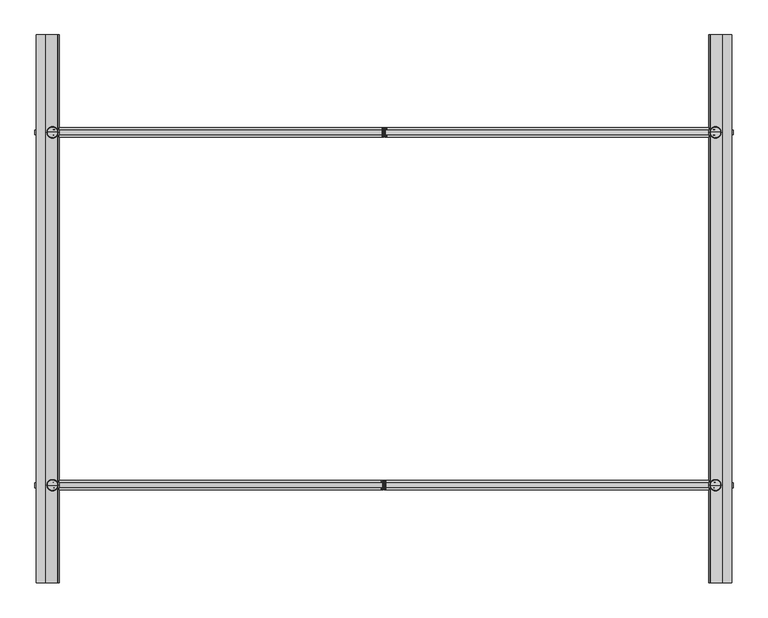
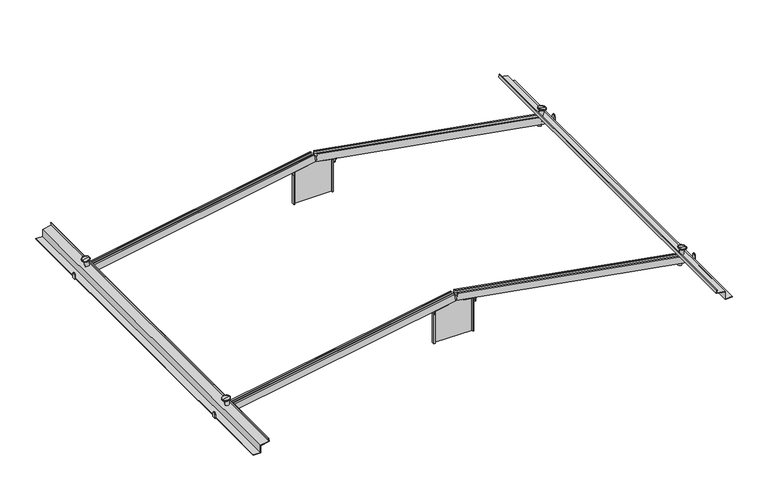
"""IFC4 building model written with IfcOpenShell, lengths in millimetres: proxy geometry, Kit Sunfix aero duo : Sunmodule Plus mono."""

from ifc_helpers import new_model, si_unit, point, frame, frame_2d, origin, place, context, project, spatial, polyline, circle_curve, ellipse_curve, trimmed, segment, composite_curve, outline, extrude, faceted_brep, source, transform, mapped, element, save
from ifc_brep_helpers import plane_surface, cylinder_surface, revolved_surface, advanced_brep


def generic_models_026dd120(model_context):
    return source(origin(), model_context, "Body", "SolidModel", [
        extrude(outline(polyline([(50.5842409, 1051.0007888), (50.5842409, 1084.0007888), (52.5842409, 1084.0007888), (52.5842409, 1053.0007888), (86.6720057, 1053.0007888), (93.5119636, 1014.20946), (106.3740068, 1016.4829555), (106.7221304, 1014.513486), (91.8897903, 1011.8917208), (84.9938065, 1051.0007888), (50.5842409, 1051.0007888)])), frame((0.0, -854.0, 0.0), z_axis=(0.0, 1.0, 0.0), x_axis=(0.0, 0.0, 1.0)), (0.0, 0.0, 1.0), 1708.0),
        extrude(outline(polyline([(-29.0, 0.0), (0.0, 0.0), (0.0, -32.9999999), (-6.0, -32.9999999), (-6.0, -31.0), (-2.0, -31.0), (-2.0, -19.0), (-27.0, -19.0), (-27.0, -31.0), (-23.0, -31.0), (-23.0, -33.0302887), (-29.0, -33.0302887), (-29.0, 0.0)]), holes=[polyline([(-2.0, -17.0), (-2.0, -2.0), (-27.0, -2.0), (-27.0, -17.0), (-2.0, -17.0)])]), frame((1045.4344107, -535.5, 52.5234994), z_axis=(-0.9848077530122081, 0.0, 0.17364817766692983), x_axis=(0.0, 1.0, 0.0)), (0.0, 0.0, 1.0), 1060.0),
        extrude(outline(composite_curve([segment(polyline([(-15.0, 0.0), (0.0, 0.0), (0.0, -18.0)]), True, "CONTINUOUS"), segment(trimmed(circle_curve(frame_2d((-7.5, -18.0)), 7.5), [point((0.0, -18.0))], [point((-15.0, -18.0))], False, "CARTESIAN"), True, "CONTINUOUS"), segment(polyline([(-15.0, -18.0), (-15.0, 0.0)]), True, "CONTINUOUS")], self_intersect=False)), frame((96.4595313, -557.5, 219.807873), z_axis=(-0.984807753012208, 0.0, 0.17364817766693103), x_axis=(0.0, -1.0, 0.0)), (0.0, 0.0, 1.0), 2.0),
        extrude(outline(composite_curve([segment(polyline([(-15.0, 0.0), (0.0, 0.0), (0.0, -18.0)]), True, "CONTINUOUS"), segment(trimmed(circle_curve(frame_2d((-7.5, -18.0)), 7.5), [point((0.0, -18.0))], [point((-15.0, -18.0))], False, "CARTESIAN"), True, "CONTINUOUS"), segment(polyline([(-15.0, -18.0), (-15.0, 0.0)]), True, "CONTINUOUS")], self_intersect=False)), frame((96.4608861, 542.5, 219.807396), z_axis=(-0.984807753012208, 0.0, 0.17364817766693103), x_axis=(0.0, -1.0, 0.0)), (0.0, 0.0, 1.0), 2.0),
        extrude(outline(polyline([(-29.0, 0.0), (0.0, 0.0), (0.0, -33.0000001), (-6.0, -33.0000001), (-6.0, -31.0000001), (-2.0, -31.0000001), (-2.0, -19.0000001), (-27.0, -19.0000001), (-27.0, -31.0000001), (-23.0, -31.0000001), (-23.0, -33.0000001), (-29.0, -33.0000001), (-29.0, 0.0)]), holes=[polyline([(-2.0, -17.0), (-2.0, -2.0000001), (-27.0, -2.0000001), (-27.0, -17.0), (-2.0, -17.0)])]), frame((1046.1210891, 564.5, 52.090647), z_axis=(-0.9848077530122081, 0.0, 0.17364817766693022), x_axis=(0.0, 1.0, 0.0)), (0.0, 0.0, 1.0), 1060.0),
        extrude(outline(polyline([(50.5842409, -1051.0007888), (85.0767034, -1051.0007888), (91.9745049, -1011.881413), (106.7358009, -1014.5158965), (106.3844086, -1016.4847854), (93.5961009, -1014.2024258), (86.7549027, -1053.0007888), (52.5842409, -1053.0007888), (52.5842409, -1084.0007888), (50.5842409, -1084.0007888), (50.5842409, -1051.0007888)])), frame((0.0, -854.0, 0.0), z_axis=(0.0, 1.0, 0.0), x_axis=(0.0, 0.0, 1.0)), (0.0, 0.0, 1.0), 1708.0),
        extrude(outline(polyline([(28.9866814, 0.0), (28.9866814, -32.6949549), (22.9866814, -32.6949549), (22.9866814, -30.6949549), (26.9866814, -30.6949549), (26.9866814, -19.0), (2.0, -19.0), (2.0, -30.7041532), (6.0, -30.7041532), (6.0, -32.7041532), (0.0, -32.7041532), (0.0, 0.0), (28.9866814, 0.0)]), holes=[polyline([(2.0, -17.0), (26.9866814, -17.0), (26.9866814, -2.0), (2.0, -2.0), (2.0, -17.0)])]), frame((-1045.406118, 564.5, 52.4241846), z_axis=(0.9848077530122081, 0.0, 0.17364817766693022), x_axis=(0.0, -1.0, 0.0)), (0.0, 0.0, 1.0), 1060.0),
        extrude(outline(polyline([(29.0, 0.0), (29.0, -33.0), (23.0, -33.0), (23.0, -31.0000001), (27.0, -31.0000001), (27.0, -19.0), (2.0, -19.0), (2.0, -31.0000001), (6.0, -31.0000001), (6.0, -33.0), (0.0, -33.0), (0.0, 0.0), (29.0, 0.0)]), holes=[polyline([(2.0, -17.0), (27.0, -17.0), (27.0, -2.0), (2.0, -2.0), (2.0, -17.0)])]), frame((-1046.1007107, -535.5, 52.5196656), z_axis=(0.9848077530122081, 0.0, 0.17364817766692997), x_axis=(0.0, -1.0, 0.0)), (0.0, 0.0, 1.0), 1060.0),
        extrude(outline(composite_curve([segment(trimmed(circle_curve(frame_2d((550.0, 66.5842409)), 7.5), [point((542.5, 66.5842409))], [point((557.5, 66.5842409))], False, "CARTESIAN"), True, "CONTINUOUS"), segment(polyline([(557.5, 66.5842409), (557.5, 48.5842409), (542.5, 48.5842409), (542.5, 66.5842409)]), True, "CONTINUOUS")], self_intersect=False)), frame((-1087.5, 0.0, 0.0), z_axis=(1.0, 0.0, 0.0), x_axis=(0.0, 1.0, 0.0)), (0.0, 0.0, 1.0), 3.0),
        extrude(outline(composite_curve([segment(trimmed(circle_curve(frame_2d((-550.0, 66.5842409)), 7.5), [point((-557.5, 66.5842409))], [point((-542.5, 66.5842409))], False, "CARTESIAN"), True, "CONTINUOUS"), segment(polyline([(-542.5, 66.5842409), (-542.5, 48.5842409), (-557.5, 48.5842409), (-557.5, 66.5842409)]), True, "CONTINUOUS")], self_intersect=False)), frame((-1087.5, 0.0, 0.0), z_axis=(1.0, 0.0, 0.0), x_axis=(0.0, 1.0, 0.0)), (0.0, 0.0, 1.0), 3.0),
        extrude(outline(composite_curve([segment(trimmed(circle_curve(frame_2d((17.9999999, -7.5)), 7.5), [point((17.9999999, 0.0))], [point((17.9999999, -15.0))], False, "CARTESIAN"), True, "CONTINUOUS"), segment(polyline([(17.9999999, -15.0), (0.0, -15.0), (0.0, 0.0), (17.9999999, 0.0)]), True, "CONTINUOUS")], self_intersect=False)), frame((-96.397644, 557.5, 219.7908866), z_axis=(0.9848077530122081, 0.0, 0.17364817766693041), x_axis=(0.17364817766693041, 0.0, -0.9848077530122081)), (0.0, 0.0, 1.0), 2.0),
        extrude(outline(composite_curve([segment(polyline([(0.0, -1115.0), (0.0, -1100.0), (17.9999999, -1100.0)]), True, "CONTINUOUS"), segment(trimmed(circle_curve(frame_2d((17.9999999, -1107.5)), 7.5), [point((17.9999999, -1100.0))], [point((17.9999999, -1115.0))], False, "CARTESIAN"), True, "CONTINUOUS"), segment(polyline([(17.9999999, -1115.0), (0.0, -1115.0)]), True, "CONTINUOUS")], self_intersect=False)), frame((-96.397644, 557.5, 219.7908866), z_axis=(0.9848077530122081, 0.0, 0.17364817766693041), x_axis=(0.17364817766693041, 0.0, -0.9848077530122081)), (0.0, 0.0, 1.0), 2.0),
        extrude(outline(composite_curve([segment(trimmed(circle_curve(frame_2d((550.0, 66.5842409)), 7.5), [point((542.5, 66.5842409))], [point((557.5, 66.5842409))], False, "CARTESIAN"), True, "CONTINUOUS"), segment(polyline([(557.5, 66.5842409), (557.5, 48.5842409), (542.5, 48.5842409), (542.5, 66.5842409)]), True, "CONTINUOUS")], self_intersect=False)), frame((1084.5, 0.0, 0.0), z_axis=(1.0, 0.0, 0.0), x_axis=(0.0, 1.0, 0.0)), (0.0, 0.0, 1.0), 3.0),
        extrude(outline(composite_curve([segment(trimmed(circle_curve(frame_2d((-550.0, 66.5842409)), 7.5), [point((-557.5, 66.5842409))], [point((-542.5, 66.5842409))], False, "CARTESIAN"), True, "CONTINUOUS"), segment(polyline([(-542.5, 66.5842409), (-542.5, 48.5842409), (-557.5, 48.5842409), (-557.5, 66.5842409)]), True, "CONTINUOUS")], self_intersect=False)), frame((1084.5, 0.0, 0.0), z_axis=(1.0, 0.0, 0.0), x_axis=(0.0, 1.0, 0.0)), (0.0, 0.0, 1.0), 3.0),
        faceted_brep([(17.5300257, -540.5, 233.6842409), (17.5300257, -535.5, 233.6842409), (-17.571354, -535.5, 233.6842409), (-17.5300257, -540.5, 233.6842409), (90.0, -535.5, 50.5842409), (90.0, -547.5, 50.5842409), (85.0, -547.5, 50.5842409), (85.0, -540.5, 50.5842409), (-85.0, -540.5, 50.5842409), (-85.0, -547.5, 50.5842409), (-90.0, -547.5, 50.5842409), (-90.0, -535.5, 50.5842409), (-90.0, -535.5, 220.9058291), (90.0, -535.5, 220.9058291), (-90.0, -547.5, 220.9058291), (-85.0, -547.5, 221.787464), (-85.0, -540.5, 221.787464), (85.0, -540.5, 221.787464), (85.0, -547.5, 221.787464), (90.0, -547.5, 220.9058291)], [[[0, 1, 2, 3]], [[4, 5, 6, 7, 8, 9, 10, 11]], [[4, 11, 12, 2, 1, 13]], [[11, 10, 14, 12]], [[10, 9, 15, 14]], [[9, 8, 16, 15]], [[8, 7, 17, 0, 3, 16]], [[7, 6, 18, 17]], [[6, 5, 19, 18]], [[5, 4, 13, 19]], [[1, 0, 17, 18, 19, 13]], [[3, 2, 12, 14, 15, 16]]]),
        faceted_brep([(94.4885259, -535.5, 220.1559208), (94.1412295, -535.5, 218.1863053), (35.0527643, -535.5, 228.605196), (35.4000607, -535.5, 230.5748115), (90.0, -535.5, 220.947369), (35.4000607, -564.5, 230.5748115), (35.0527643, -564.5, 228.605196), (94.1412295, -564.5, 218.1863053), (94.4885259, -564.5, 220.1559208), (90.0, -564.5, 220.947369)], [[[0, 1, 2, 3, 4]], [[5, 6, 7, 8, 9]], [[3, 2, 6, 5]], [[2, 1, 7, 6]], [[1, 0, 8, 7]], [[3, 5, 9, 8, 0, 4]]]),
        faceted_brep([(-35.3395633, -535.5, 230.5570736), (-34.992267, -535.5, 228.5874581), (-94.0807322, -535.5, 218.1685675), (-94.4280285, -535.5, 220.138183), (-90.0, -535.5, 220.9189639), (-94.4280285, -564.5, 220.138183), (-94.0807322, -564.5, 218.1685675), (-34.992267, -564.5, 228.5874581), (-35.3395633, -564.5, 230.5570736), (-90.0, -564.5, 220.9189639)], [[[0, 1, 2, 3, 4]], [[5, 6, 7, 8, 9]], [[1, 0, 8, 7]], [[2, 1, 7, 6]], [[3, 2, 6, 5]], [[8, 0, 4, 3, 5, 9]]]),
        faceted_brep([(17.5300257, 559.5, 233.6842409), (17.5300257, 564.5, 233.6842409), (-17.571354, 564.5, 233.6842409), (-17.5300257, 559.5, 233.6842409), (90.0, 564.5, 50.5842409), (90.0, 552.5, 50.5842409), (85.0, 552.5, 50.5842409), (85.0, 559.5, 50.5842409), (-85.0, 559.5, 50.5842409), (-85.0, 552.5, 50.5842409), (-90.0, 552.5, 50.5842409), (-90.0, 564.5, 50.5842409), (-90.0, 564.5, 220.9058291), (90.0, 564.5, 220.9058291), (-90.0, 552.5, 220.9058291), (-85.0, 552.5, 221.787464), (-85.0, 559.5, 221.787464), (85.0, 559.5, 221.787464), (85.0, 552.5, 221.787464), (90.0, 552.5, 220.9058291)], [[[0, 1, 2, 3]], [[4, 5, 6, 7, 8, 9, 10, 11]], [[4, 11, 12, 2, 1, 13]], [[11, 10, 14, 12]], [[10, 9, 15, 14]], [[9, 8, 16, 15]], [[8, 7, 17, 0, 3, 16]], [[7, 6, 18, 17]], [[6, 5, 19, 18]], [[5, 4, 13, 19]], [[1, 0, 17, 18, 19, 13]], [[3, 2, 12, 14, 15, 16]]]),
        faceted_brep([(94.4897631, 564.5, 220.1544877), (94.1424667, 564.5, 218.1848722), (35.0540016, 564.5, 228.6037629), (35.4012979, 564.5, 230.5733784), (90.0, 564.5, 220.9461541), (35.4012979, 535.5, 230.5733784), (35.0540016, 535.5, 228.6037629), (94.1424667, 535.5, 218.1848722), (94.4897631, 535.5, 220.1544877), (90.0, 535.5, 220.9461541)], [[[0, 1, 2, 3, 4]], [[5, 6, 7, 8, 9]], [[3, 2, 6, 5]], [[2, 1, 7, 6]], [[1, 0, 8, 7]], [[3, 5, 9, 8, 0, 4]]]),
        faceted_brep([(-35.3387775, 564.5, 230.5540029), (-34.9914811, 564.5, 228.5843874), (-94.0799463, 564.5, 218.1654967), (-94.4272427, 564.5, 220.1351122), (-90.0, 564.5, 220.9157545), (-94.4272427, 535.5, 220.1351122), (-94.0799463, 535.5, 218.1654967), (-34.9914811, 535.5, 228.5843874), (-35.3387775, 535.5, 230.5540029), (-90.0, 535.5, 220.9157545)], [[[0, 1, 2, 3, 4]], [[5, 6, 7, 8, 9]], [[1, 0, 8, 7]], [[2, 1, 7, 6]], [[3, 2, 6, 5]], [[8, 0, 4, 3, 5, 9]]]),
        advanced_brep(
        [(-1016.9057878, -550.0144087, 126.5605313), (-1049.2313508, -550.0144087, 120.8606624), (-1033.0685693, -550.0144087, 123.7105968), (-1015.7649314, -550.0144087, 125.761695), (-1050.030187, -550.0144087, 119.719806), (-1015.5939214, -550.0144087, 124.7918487), (-1049.859177, -550.0144087, 118.7499597), (-1017.1915938, -550.0144087, 122.510136), (-1047.5774642, -550.0144087, 117.1522872), (-1022.2823855, -550.0144087, 116.65385), (-1040.7907171, -550.0144087, 113.3903318), (-1010.0123837, -550.0144087, 47.0672117), (-1028.5207152, -550.0144087, 43.8036935), (-1019.2665495, -550.0144087, 45.4354526)],
        [
            (0, 1, circle_curve(frame((-1033.0685693, -550.0144087, 123.7105968), z_axis=(-0.17364817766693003, 0.0, 0.9848077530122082), x_axis=(-0.984807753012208, 0.0, -0.17364817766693)), 16.4121185)),
            (1, 2),
            (2, 0),
            (1, 0, circle_curve(frame((-1033.0685693, -550.0144087, 123.7105968), z_axis=(-0.17364817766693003, 0.0, 0.9848077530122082), x_axis=(-0.984807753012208, 0.0, -0.17364817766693)), 16.4121185)),
            (3, 4, circle_curve(frame((-1032.8975592, -550.0144087, 122.7407505), z_axis=(-0.17364817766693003, 0.0, 0.9848077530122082), x_axis=(-0.984807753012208, 0.0, -0.17364817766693)), 17.3969262)),
            (4, 1, circle_curve(frame((-1048.816113, -550.0144087, 119.719806), z_axis=(0.0, 1.0, 0.0), x_axis=(0.9999999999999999, 0.0, 0.0)), 1.214074)),
            (0, 3, circle_curve(frame((-1016.9057878, -550.0144087, 125.3464573), z_axis=(0.0, 1.0, 0.0), x_axis=(-0.9396926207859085, 0.0, -0.3420201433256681)), 1.214074)),
            (4, 3, circle_curve(frame((-1032.8975592, -550.0144087, 122.7407505), z_axis=(-0.17364817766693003, 0.0, 0.9848077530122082), x_axis=(-0.984807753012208, 0.0, -0.17364817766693)), 17.3969262)),
            (5, 6, circle_curve(frame((-1032.7265492, -550.0144087, 121.7709042), z_axis=(-0.17364817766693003, 0.0, 0.9848077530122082), x_axis=(-0.984807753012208, 0.0, -0.17364817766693)), 17.3969262)),
            (6, 4),
            (3, 5),
            (6, 5, circle_curve(frame((-1032.7265492, -550.0144087, 121.7709042), z_axis=(-0.17364817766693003, 0.0, 0.9848077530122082), x_axis=(-0.984807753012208, 0.0, -0.17364817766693)), 17.3969262)),
            (7, 8, circle_curve(frame((-1032.384529, -550.0144087, 119.8312116), z_axis=(-0.17364817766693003, 0.0, 0.9848077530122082), x_axis=(-0.984807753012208, 0.0, -0.17364817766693)), 15.4273107)),
            (8, 6, circle_curve(frame((-1048.0897107, -550.0144087, 118.8488714), z_axis=(0.0, 1.0, 0.0), x_axis=(0.9999999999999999, 0.0, 0.0)), 1.7722286)),
            (5, 7, circle_curve(frame((-1017.2905055, -550.0144087, 124.2796022), z_axis=(0.0, 1.0, 0.0), x_axis=(-0.9396926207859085, 0.0, -0.3420201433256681)), 1.7722286)),
            (8, 7, circle_curve(frame((-1032.384529, -550.0144087, 119.8312116), z_axis=(-0.17364817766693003, 0.0, 0.9848077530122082), x_axis=(-0.984807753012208, 0.0, -0.17364817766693)), 15.4273107)),
            (9, 10, circle_curve(frame((-1031.5365513, -550.0144087, 115.0220909), z_axis=(-0.17364817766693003, 0.0, 0.9848077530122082), x_axis=(-0.984807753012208, 0.0, -0.17364817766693)), 9.3969262)),
            (10, 8, circle_curve(frame((-1046.5069046, -550.0144087, 111.0808421), z_axis=(0.0, -1.0, 0.0), x_axis=(0.9999999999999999, 0.0, 0.0)), 6.1651069)),
            (7, 9, circle_curve(frame((-1016.1210343, -550.0144087, 116.4386909), z_axis=(0.0, -1.0, 0.0), x_axis=(-0.9396926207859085, 0.0, -0.3420201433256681)), 6.1651069)),
            (10, 9, circle_curve(frame((-1031.5365513, -550.0144087, 115.0220909), z_axis=(-0.17364817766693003, 0.0, 0.9848077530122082), x_axis=(-0.984807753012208, 0.0, -0.17364817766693)), 9.3969262)),
            (11, 12, circle_curve(frame((-1019.2665495, -550.0144087, 45.4354526), z_axis=(-0.17364817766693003, 0.0, 0.9848077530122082), x_axis=(-0.984807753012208, 0.0, -0.17364817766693)), 9.3969262)),
            (12, 10),
            (9, 11),
            (12, 11, circle_curve(frame((-1019.2665495, -550.0144087, 45.4354526), z_axis=(-0.17364817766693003, 0.0, 0.9848077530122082), x_axis=(-0.984807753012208, 0.0, -0.17364817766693)), 9.3969262)),
            (13, 12),
            (11, 13),
        ],
        [
            plane_surface(frame((-1033.0685693, -550.0144087, 123.7105968), z_axis=(-0.17364817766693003, 0.0, 0.9848077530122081), x_axis=(-0.9848077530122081, 0.0, -0.17364817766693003))),
            revolved_surface(trimmed(ellipse_curve(frame((-1048.816113, -550.0144087, 119.719806), z_axis=(0.0, -1.0, 0.0), x_axis=(0.9999999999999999, 0.0, 0.0)), 1.214074, 1.214074), [point((-1049.2313508, -550.0144087, 120.8606624))], [point((-1050.030187, -550.0144087, 119.719806))], True, "CARTESIAN"), (-1033.0685693, -550.0144087, 123.7105968), (0.17364817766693, 0.0, -0.984807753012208)),
            cylinder_surface(frame((-1033.0685693, -550.0144087, 123.7105968), z_axis=(0.17364817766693, 0.0, -0.984807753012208), x_axis=(-0.984807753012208, 0.0, -0.17364817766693)), 17.3969262),
            revolved_surface(trimmed(ellipse_curve(frame((-1048.0897107, -550.0144087, 118.8488714), z_axis=(0.0, -1.0, 0.0), x_axis=(0.9999999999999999, 0.0, 0.0)), 1.7722286, 1.7722286), [point((-1049.859177, -550.0144087, 118.7499597))], [point((-1047.5774642, -550.0144087, 117.1522872))], True, "CARTESIAN"), (-1033.0685693, -550.0144087, 123.7105968), (0.17364817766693, 0.0, -0.984807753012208)),
            revolved_surface(trimmed(ellipse_curve(frame((-1046.5069046, -550.0144087, 111.0808421), z_axis=(0.0, 1.0, 0.0), x_axis=(0.9999999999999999, 0.0, 0.0)), 6.1651069, 6.1651069), [point((-1047.5774642, -550.0144087, 117.1522872))], [point((-1040.7907171, -550.0144087, 113.3903318))], True, "CARTESIAN"), (-1033.0685693, -550.0144087, 123.7105968), (0.17364817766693, 0.0, -0.984807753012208)),
            cylinder_surface(frame((-1033.0685693, -550.0144087, 123.7105968), z_axis=(0.17364817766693, 0.0, -0.984807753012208), x_axis=(-0.984807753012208, 0.0, -0.17364817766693)), 9.3969262),
            plane_surface(frame((-1019.2665495, -550.0144087, 45.4354526), z_axis=(0.17364817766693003, 0.0, -0.9848077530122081), x_axis=(-0.9848077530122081, 0.0, -0.17364817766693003))),
        ],
        [
            (0, [[1, 2, 3]]),
            (0, [[4, -3, -2]]),
            (1, [[5, 6, -1, 7]]),
            (1, [[8, -7, -4, -6]]),
            (2, [[9, 10, -5, 11]]),
            (2, [[12, -11, -8, -10]]),
            (3, [[13, 14, -9, 15]]),
            (3, [[16, -15, -12, -14]]),
            (4, [[17, 18, -13, 19]]),
            (4, [[20, -19, -16, -18]]),
            (5, [[21, 22, -17, 23]]),
            (5, [[24, -23, -20, -22]]),
            (6, [[25, -21, 26]]),
            (6, [[-26, -24, -25]]),
        ],
    ),
        advanced_brep(
        [(-1033.0685693, 550.0144087, 123.7105968), (-1049.2313508, 550.0144087, 120.8606624), (-1016.9057878, 550.0144087, 126.5605313), (-1050.030187, 550.0144087, 119.719806), (-1015.7649314, 550.0144087, 125.761695), (-1049.859177, 550.0144087, 118.7499597), (-1015.5939214, 550.0144087, 124.7918487), (-1047.5774642, 550.0144087, 117.1522872), (-1017.1915938, 550.0144087, 122.510136), (-1040.7907171, 550.0144087, 113.3903318), (-1022.2823855, 550.0144087, 116.65385), (-1028.5207152, 550.0144087, 43.8036935), (-1010.0123837, 550.0144087, 47.0672117), (-1019.2665495, 550.0144087, 45.4354526)],
        [
            (0, 1),
            (1, 2, circle_curve(frame((-1033.0685693, 550.0144087, 123.7105968), z_axis=(-0.17364817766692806, 0.0, 0.9848077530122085), x_axis=(-0.9848077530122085, 0.0, -0.17364817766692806)), 16.4121185)),
            (2, 0),
            (2, 1, circle_curve(frame((-1033.0685693, 550.0144087, 123.7105968), z_axis=(-0.17364817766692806, 0.0, 0.9848077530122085), x_axis=(-0.9848077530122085, 0.0, -0.17364817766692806)), 16.4121185)),
            (1, 3, circle_curve(frame((-1048.816113, 550.0144087, 119.719806), z_axis=(0.0, -1.0, 0.0), x_axis=(1.0, 0.0, 0.0)), 1.214074)),
            (3, 4, circle_curve(frame((-1032.8975592, 550.0144087, 122.7407505), z_axis=(-0.17364817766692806, 0.0, 0.9848077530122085), x_axis=(-0.9848077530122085, 0.0, -0.17364817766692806)), 17.3969262)),
            (4, 2, circle_curve(frame((-1016.9057878, 550.0144087, 125.3464573), z_axis=(0.0, -1.0, 0.0), x_axis=(-0.93969262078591, 0.0, -0.3420201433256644)), 1.214074)),
            (4, 3, circle_curve(frame((-1032.8975592, 550.0144087, 122.7407505), z_axis=(-0.17364817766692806, 0.0, 0.9848077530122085), x_axis=(-0.9848077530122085, 0.0, -0.17364817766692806)), 17.3969262)),
            (3, 5),
            (5, 6, circle_curve(frame((-1032.7265492, 550.0144087, 121.7709042), z_axis=(-0.17364817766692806, 0.0, 0.9848077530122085), x_axis=(-0.9848077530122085, 0.0, -0.17364817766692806)), 17.3969262)),
            (6, 4),
            (6, 5, circle_curve(frame((-1032.7265492, 550.0144087, 121.7709042), z_axis=(-0.17364817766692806, 0.0, 0.9848077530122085), x_axis=(-0.9848077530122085, 0.0, -0.17364817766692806)), 17.3969262)),
            (5, 7, circle_curve(frame((-1048.0897107, 550.0144087, 118.8488714), z_axis=(0.0, -1.0, 0.0), x_axis=(1.0, 0.0, 0.0)), 1.7722286)),
            (7, 8, circle_curve(frame((-1032.384529, 550.0144087, 119.8312116), z_axis=(-0.17364817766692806, 0.0, 0.9848077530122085), x_axis=(-0.9848077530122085, 0.0, -0.17364817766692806)), 15.4273107)),
            (8, 6, circle_curve(frame((-1017.2905055, 550.0144087, 124.2796022), z_axis=(0.0, -1.0, 0.0), x_axis=(-0.93969262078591, 0.0, -0.3420201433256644)), 1.7722286)),
            (8, 7, circle_curve(frame((-1032.384529, 550.0144087, 119.8312116), z_axis=(-0.17364817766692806, 0.0, 0.9848077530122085), x_axis=(-0.9848077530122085, 0.0, -0.17364817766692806)), 15.4273107)),
            (7, 9, circle_curve(frame((-1046.5069046, 550.0144087, 111.0808421), z_axis=(0.0, 1.0, 0.0), x_axis=(1.0, 0.0, 0.0)), 6.1651069)),
            (9, 10, circle_curve(frame((-1031.5365513, 550.0144087, 115.0220909), z_axis=(-0.17364817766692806, 0.0, 0.9848077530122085), x_axis=(-0.9848077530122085, 0.0, -0.17364817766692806)), 9.3969262)),
            (10, 8, circle_curve(frame((-1016.1210343, 550.0144087, 116.4386909), z_axis=(0.0, 1.0, 0.0), x_axis=(-0.93969262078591, 0.0, -0.3420201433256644)), 6.1651069)),
            (10, 9, circle_curve(frame((-1031.5365513, 550.0144087, 115.0220909), z_axis=(-0.17364817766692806, 0.0, 0.9848077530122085), x_axis=(-0.9848077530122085, 0.0, -0.17364817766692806)), 9.3969262)),
            (9, 11),
            (11, 12, circle_curve(frame((-1019.2665495, 550.0144087, 45.4354526), z_axis=(-0.17364817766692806, 0.0, 0.9848077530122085), x_axis=(-0.9848077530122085, 0.0, -0.17364817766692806)), 9.3969262)),
            (12, 10),
            (12, 11, circle_curve(frame((-1019.2665495, 550.0144087, 45.4354526), z_axis=(-0.17364817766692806, 0.0, 0.9848077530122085), x_axis=(-0.9848077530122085, 0.0, -0.17364817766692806)), 9.3969262)),
            (11, 13),
            (13, 12),
        ],
        [
            plane_surface(frame((-1033.0685693, 550.0144087, 123.7105968), z_axis=(-0.17364817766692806, 0.0, 0.9848077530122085), x_axis=(-0.9848077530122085, 0.0, -0.17364817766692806))),
            revolved_surface(trimmed(ellipse_curve(frame((-1048.816113, 550.0144087, 119.719806), z_axis=(0.0, 1.0, 0.0), x_axis=(1.0, 0.0, 0.0)), 1.214074, 1.214074), [point((-1050.030187, 550.0144087, 119.719806))], [point((-1049.2313508, 550.0144087, 120.8606624))], True, "CARTESIAN"), (-1033.0685693, 550.0144087, 123.7105968), (-0.17364817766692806, 0.0, 0.9848077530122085)),
            cylinder_surface(frame((-1033.0685693, 550.0144087, 123.7105968), z_axis=(-0.17364817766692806, 0.0, 0.9848077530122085), x_axis=(-0.9848077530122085, 0.0, -0.17364817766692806)), 17.3969262),
            revolved_surface(trimmed(ellipse_curve(frame((-1048.0897107, 550.0144087, 118.8488714), z_axis=(0.0, 1.0, 0.0), x_axis=(1.0, 0.0, 0.0)), 1.7722286, 1.7722286), [point((-1047.5774642, 550.0144087, 117.1522872))], [point((-1049.859177, 550.0144087, 118.7499597))], True, "CARTESIAN"), (-1033.0685693, 550.0144087, 123.7105968), (-0.17364817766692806, 0.0, 0.9848077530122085)),
            revolved_surface(trimmed(ellipse_curve(frame((-1046.5069046, 550.0144087, 111.0808421), z_axis=(0.0, -1.0, 0.0), x_axis=(1.0, 0.0, 0.0)), 6.1651069, 6.1651069), [point((-1040.7907171, 550.0144087, 113.3903318))], [point((-1047.5774642, 550.0144087, 117.1522872))], True, "CARTESIAN"), (-1033.0685693, 550.0144087, 123.7105968), (-0.17364817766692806, 0.0, 0.9848077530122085)),
            cylinder_surface(frame((-1033.0685693, 550.0144087, 123.7105968), z_axis=(-0.17364817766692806, 0.0, 0.9848077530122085), x_axis=(-0.9848077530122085, 0.0, -0.17364817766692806)), 9.3969262),
            plane_surface(frame((-1019.2665495, 550.0144087, 45.4354526), z_axis=(0.17364817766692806, 0.0, -0.9848077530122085), x_axis=(-0.9848077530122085, 0.0, -0.17364817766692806))),
        ],
        [
            (0, [[1, 2, 3]]),
            (0, [[-3, 4, -1]]),
            (1, [[-2, 5, 6, 7]]),
            (1, [[-4, -7, 8, -5]]),
            (2, [[-6, 9, 10, 11]]),
            (2, [[-8, -11, 12, -9]]),
            (3, [[-10, 13, 14, 15]]),
            (3, [[-12, -15, 16, -13]]),
            (4, [[-14, 17, 18, 19]]),
            (4, [[-16, -19, 20, -17]]),
            (5, [[-18, 21, 22, 23]]),
            (5, [[-20, -23, 24, -21]]),
            (6, [[-22, 25, 26]]),
            (6, [[-24, -26, -25]]),
        ],
    ),
        advanced_brep(
        [(1033.0685693, -550.0144087, 123.7105968), (1049.2313508, -550.0144087, 120.8606624), (1016.9057878, -550.0144087, 126.5605313), (1050.030187, -550.0144087, 119.719806), (1015.7649314, -550.0144087, 125.761695), (1049.859177, -550.0144087, 118.7499597), (1015.5939214, -550.0144087, 124.7918487), (1047.5774642, -550.0144087, 117.1522872), (1017.1915938, -550.0144087, 122.510136), (1040.7907171, -550.0144087, 113.3903318), (1022.2823855, -550.0144087, 116.65385), (1028.5207152, -550.0144087, 43.8036935), (1010.0123837, -550.0144087, 47.0672117), (1019.2665495, -550.0144087, 45.4354526)],
        [
            (0, 1),
            (1, 2, circle_curve(frame((1033.0685693, -550.0144087, 123.7105968), z_axis=(0.1736481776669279, 0.0, 0.9848077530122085), x_axis=(0.9848077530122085, 0.0, -0.1736481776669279)), 16.4121185)),
            (2, 0),
            (2, 1, circle_curve(frame((1033.0685693, -550.0144087, 123.7105968), z_axis=(0.1736481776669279, 0.0, 0.9848077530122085), x_axis=(0.9848077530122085, 0.0, -0.1736481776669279)), 16.4121185)),
            (1, 3, circle_curve(frame((1048.816113, -550.0144087, 119.719806), z_axis=(0.0, 1.0, 0.0), x_axis=(-1.0, 0.0, 0.0)), 1.214074)),
            (3, 4, circle_curve(frame((1032.8975592, -550.0144087, 122.7407505), z_axis=(0.1736481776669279, 0.0, 0.9848077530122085), x_axis=(0.9848077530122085, 0.0, -0.1736481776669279)), 17.3969262)),
            (4, 2, circle_curve(frame((1016.9057878, -550.0144087, 125.3464573), z_axis=(0.0, 1.0, 0.0), x_axis=(0.93969262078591, 0.0, -0.34202014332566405)), 1.214074)),
            (4, 3, circle_curve(frame((1032.8975592, -550.0144087, 122.7407505), z_axis=(0.1736481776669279, 0.0, 0.9848077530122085), x_axis=(0.9848077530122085, 0.0, -0.1736481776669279)), 17.3969262)),
            (3, 5),
            (5, 6, circle_curve(frame((1032.7265492, -550.0144087, 121.7709042), z_axis=(0.1736481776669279, 0.0, 0.9848077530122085), x_axis=(0.9848077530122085, 0.0, -0.1736481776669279)), 17.3969262)),
            (6, 4),
            (6, 5, circle_curve(frame((1032.7265492, -550.0144087, 121.7709042), z_axis=(0.1736481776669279, 0.0, 0.9848077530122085), x_axis=(0.9848077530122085, 0.0, -0.1736481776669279)), 17.3969262)),
            (5, 7, circle_curve(frame((1048.0897107, -550.0144087, 118.8488714), z_axis=(0.0, 1.0, 0.0), x_axis=(-1.0, 0.0, 0.0)), 1.7722286)),
            (7, 8, circle_curve(frame((1032.384529, -550.0144087, 119.8312116), z_axis=(0.1736481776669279, 0.0, 0.9848077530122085), x_axis=(0.9848077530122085, 0.0, -0.1736481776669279)), 15.4273107)),
            (8, 6, circle_curve(frame((1017.2905055, -550.0144087, 124.2796022), z_axis=(0.0, 1.0, 0.0), x_axis=(0.93969262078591, 0.0, -0.34202014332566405)), 1.7722286)),
            (8, 7, circle_curve(frame((1032.384529, -550.0144087, 119.8312116), z_axis=(0.1736481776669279, 0.0, 0.9848077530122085), x_axis=(0.9848077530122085, 0.0, -0.1736481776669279)), 15.4273107)),
            (7, 9, circle_curve(frame((1046.5069046, -550.0144087, 111.0808421), z_axis=(0.0, -1.0, 0.0), x_axis=(-1.0, 0.0, 0.0)), 6.1651069)),
            (9, 10, circle_curve(frame((1031.5365513, -550.0144087, 115.0220909), z_axis=(0.1736481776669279, 0.0, 0.9848077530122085), x_axis=(0.9848077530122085, 0.0, -0.1736481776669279)), 9.3969262)),
            (10, 8, circle_curve(frame((1016.1210343, -550.0144087, 116.4386909), z_axis=(0.0, -1.0, 0.0), x_axis=(0.93969262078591, 0.0, -0.34202014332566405)), 6.1651069)),
            (10, 9, circle_curve(frame((1031.5365513, -550.0144087, 115.0220909), z_axis=(0.1736481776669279, 0.0, 0.9848077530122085), x_axis=(0.9848077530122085, 0.0, -0.1736481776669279)), 9.3969262)),
            (9, 11),
            (11, 12, circle_curve(frame((1019.2665495, -550.0144087, 45.4354526), z_axis=(0.1736481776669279, 0.0, 0.9848077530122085), x_axis=(0.9848077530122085, 0.0, -0.1736481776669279)), 9.3969262)),
            (12, 10),
            (12, 11, circle_curve(frame((1019.2665495, -550.0144087, 45.4354526), z_axis=(0.1736481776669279, 0.0, 0.9848077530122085), x_axis=(0.9848077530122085, 0.0, -0.1736481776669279)), 9.3969262)),
            (11, 13),
            (13, 12),
        ],
        [
            plane_surface(frame((1033.0685693, -550.0144087, 123.7105968), z_axis=(0.1736481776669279, 0.0, 0.9848077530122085), x_axis=(0.9848077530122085, 0.0, -0.1736481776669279))),
            revolved_surface(trimmed(ellipse_curve(frame((1048.816113, -550.0144087, 119.719806), z_axis=(0.0, -1.0, 0.0), x_axis=(-1.0, 0.0, 0.0)), 1.214074, 1.214074), [point((1050.030187, -550.0144087, 119.719806))], [point((1049.2313508, -550.0144087, 120.8606624))], True, "CARTESIAN"), (1033.0685693, -550.0144087, 123.7105968), (0.1736481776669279, 0.0, 0.9848077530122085)),
            cylinder_surface(frame((1033.0685693, -550.0144087, 123.7105968), z_axis=(0.1736481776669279, 0.0, 0.9848077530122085), x_axis=(0.9848077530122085, 0.0, -0.1736481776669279)), 17.3969262),
            revolved_surface(trimmed(ellipse_curve(frame((1048.0897107, -550.0144087, 118.8488714), z_axis=(0.0, -1.0, 0.0), x_axis=(-1.0, 0.0, 0.0)), 1.7722286, 1.7722286), [point((1047.5774642, -550.0144087, 117.1522872))], [point((1049.859177, -550.0144087, 118.7499597))], True, "CARTESIAN"), (1033.0685693, -550.0144087, 123.7105968), (0.1736481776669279, 0.0, 0.9848077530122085)),
            revolved_surface(trimmed(ellipse_curve(frame((1046.5069046, -550.0144087, 111.0808421), z_axis=(0.0, 1.0, 0.0), x_axis=(-1.0, 0.0, 0.0)), 6.1651069, 6.1651069), [point((1040.7907171, -550.0144087, 113.3903318))], [point((1047.5774642, -550.0144087, 117.1522872))], True, "CARTESIAN"), (1033.0685693, -550.0144087, 123.7105968), (0.1736481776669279, 0.0, 0.9848077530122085)),
            cylinder_surface(frame((1033.0685693, -550.0144087, 123.7105968), z_axis=(0.1736481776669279, 0.0, 0.9848077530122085), x_axis=(0.9848077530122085, 0.0, -0.1736481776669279)), 9.3969262),
            plane_surface(frame((1019.2665495, -550.0144087, 45.4354526), z_axis=(-0.1736481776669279, 0.0, -0.9848077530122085), x_axis=(0.9848077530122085, 0.0, -0.1736481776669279))),
        ],
        [
            (0, [[1, 2, 3]]),
            (0, [[-3, 4, -1]]),
            (1, [[-2, 5, 6, 7]]),
            (1, [[-4, -7, 8, -5]]),
            (2, [[-6, 9, 10, 11]]),
            (2, [[-8, -11, 12, -9]]),
            (3, [[-10, 13, 14, 15]]),
            (3, [[-12, -15, 16, -13]]),
            (4, [[-14, 17, 18, 19]]),
            (4, [[-16, -19, 20, -17]]),
            (5, [[-18, 21, 22, 23]]),
            (5, [[-20, -23, 24, -21]]),
            (6, [[-22, 25, 26]]),
            (6, [[-24, -26, -25]]),
        ],
    ),
        advanced_brep(
        [(1016.9057878, 550.0144087, 126.5605313), (1049.2313508, 550.0144087, 120.8606624), (1033.0685693, 550.0144087, 123.7105968), (1015.7649314, 550.0144087, 125.761695), (1050.030187, 550.0144087, 119.719806), (1015.5939214, 550.0144087, 124.7918487), (1049.859177, 550.0144087, 118.7499597), (1017.1915938, 550.0144087, 122.510136), (1047.5774642, 550.0144087, 117.1522872), (1022.2823855, 550.0144087, 116.65385), (1040.7907171, 550.0144087, 113.3903318), (1010.0123837, 550.0144087, 47.0672117), (1028.5207152, 550.0144087, 43.8036935), (1019.2665495, 550.0144087, 45.4354526)],
        [
            (0, 1, circle_curve(frame((1033.0685693, 550.0144087, 123.7105968), z_axis=(0.17364817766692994, 0.0, 0.9848077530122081), x_axis=(0.9848077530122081, 0.0, -0.17364817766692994)), 16.4121185)),
            (1, 2),
            (2, 0),
            (1, 0, circle_curve(frame((1033.0685693, 550.0144087, 123.7105968), z_axis=(0.17364817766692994, 0.0, 0.9848077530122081), x_axis=(0.9848077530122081, 0.0, -0.17364817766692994)), 16.4121185)),
            (3, 4, circle_curve(frame((1032.8975592, 550.0144087, 122.7407505), z_axis=(0.17364817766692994, 0.0, 0.9848077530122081), x_axis=(0.9848077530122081, 0.0, -0.17364817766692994)), 17.3969262)),
            (4, 1, circle_curve(frame((1048.816113, 550.0144087, 119.719806), z_axis=(0.0, -1.0, 0.0), x_axis=(-1.0, 0.0, 0.0)), 1.214074)),
            (0, 3, circle_curve(frame((1016.9057878, 550.0144087, 125.3464573), z_axis=(0.0, -1.0, 0.0), x_axis=(0.9396926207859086, 0.0, -0.34202014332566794)), 1.214074)),
            (4, 3, circle_curve(frame((1032.8975592, 550.0144087, 122.7407505), z_axis=(0.17364817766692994, 0.0, 0.9848077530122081), x_axis=(0.9848077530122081, 0.0, -0.17364817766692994)), 17.3969262)),
            (5, 6, circle_curve(frame((1032.7265492, 550.0144087, 121.7709042), z_axis=(0.17364817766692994, 0.0, 0.9848077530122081), x_axis=(0.9848077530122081, 0.0, -0.17364817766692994)), 17.3969262)),
            (6, 4),
            (3, 5),
            (6, 5, circle_curve(frame((1032.7265492, 550.0144087, 121.7709042), z_axis=(0.17364817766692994, 0.0, 0.9848077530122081), x_axis=(0.9848077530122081, 0.0, -0.17364817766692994)), 17.3969262)),
            (7, 8, circle_curve(frame((1032.384529, 550.0144087, 119.8312116), z_axis=(0.17364817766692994, 0.0, 0.9848077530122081), x_axis=(0.9848077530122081, 0.0, -0.17364817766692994)), 15.4273107)),
            (8, 6, circle_curve(frame((1048.0897107, 550.0144087, 118.8488714), z_axis=(0.0, -1.0, 0.0), x_axis=(-1.0, 0.0, 0.0)), 1.7722286)),
            (5, 7, circle_curve(frame((1017.2905055, 550.0144087, 124.2796022), z_axis=(0.0, -1.0, 0.0), x_axis=(0.9396926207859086, 0.0, -0.34202014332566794)), 1.7722286)),
            (8, 7, circle_curve(frame((1032.384529, 550.0144087, 119.8312116), z_axis=(0.17364817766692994, 0.0, 0.9848077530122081), x_axis=(0.9848077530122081, 0.0, -0.17364817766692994)), 15.4273107)),
            (9, 10, circle_curve(frame((1031.5365513, 550.0144087, 115.0220909), z_axis=(0.17364817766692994, 0.0, 0.9848077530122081), x_axis=(0.9848077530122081, 0.0, -0.17364817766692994)), 9.3969262)),
            (10, 8, circle_curve(frame((1046.5069046, 550.0144087, 111.0808421), z_axis=(0.0, 1.0, 0.0), x_axis=(-1.0, 0.0, 0.0)), 6.1651069)),
            (7, 9, circle_curve(frame((1016.1210343, 550.0144087, 116.4386909), z_axis=(0.0, 1.0, 0.0), x_axis=(0.9396926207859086, 0.0, -0.34202014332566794)), 6.1651069)),
            (10, 9, circle_curve(frame((1031.5365513, 550.0144087, 115.0220909), z_axis=(0.17364817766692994, 0.0, 0.9848077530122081), x_axis=(0.9848077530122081, 0.0, -0.17364817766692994)), 9.3969262)),
            (11, 12, circle_curve(frame((1019.2665495, 550.0144087, 45.4354526), z_axis=(0.17364817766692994, 0.0, 0.9848077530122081), x_axis=(0.9848077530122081, 0.0, -0.17364817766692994)), 9.3969262)),
            (12, 10),
            (9, 11),
            (12, 11, circle_curve(frame((1019.2665495, 550.0144087, 45.4354526), z_axis=(0.17364817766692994, 0.0, 0.9848077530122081), x_axis=(0.9848077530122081, 0.0, -0.17364817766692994)), 9.3969262)),
            (13, 12),
            (11, 13),
        ],
        [
            plane_surface(frame((1033.0685693, 550.0144087, 123.7105968), z_axis=(0.17364817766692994, 0.0, 0.9848077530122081), x_axis=(0.9848077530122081, 0.0, -0.17364817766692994))),
            revolved_surface(trimmed(ellipse_curve(frame((1048.816113, 550.0144087, 119.719806), z_axis=(0.0, 1.0, 0.0), x_axis=(-1.0, 0.0, 0.0)), 1.214074, 1.214074), [point((1049.2313508, 550.0144087, 120.8606624))], [point((1050.030187, 550.0144087, 119.719806))], True, "CARTESIAN"), (1033.0685693, 550.0144087, 123.7105968), (-0.17364817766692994, 0.0, -0.9848077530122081)),
            cylinder_surface(frame((1033.0685693, 550.0144087, 123.7105968), z_axis=(-0.17364817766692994, 0.0, -0.9848077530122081), x_axis=(0.9848077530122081, 0.0, -0.17364817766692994)), 17.3969262),
            revolved_surface(trimmed(ellipse_curve(frame((1048.0897107, 550.0144087, 118.8488714), z_axis=(0.0, 1.0, 0.0), x_axis=(-1.0, 0.0, 0.0)), 1.7722286, 1.7722286), [point((1049.859177, 550.0144087, 118.7499597))], [point((1047.5774642, 550.0144087, 117.1522872))], True, "CARTESIAN"), (1033.0685693, 550.0144087, 123.7105968), (-0.17364817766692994, 0.0, -0.9848077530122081)),
            revolved_surface(trimmed(ellipse_curve(frame((1046.5069046, 550.0144087, 111.0808421), z_axis=(0.0, -1.0, 0.0), x_axis=(-1.0, 0.0, 0.0)), 6.1651069, 6.1651069), [point((1047.5774642, 550.0144087, 117.1522872))], [point((1040.7907171, 550.0144087, 113.3903318))], True, "CARTESIAN"), (1033.0685693, 550.0144087, 123.7105968), (-0.17364817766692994, 0.0, -0.9848077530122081)),
            cylinder_surface(frame((1033.0685693, 550.0144087, 123.7105968), z_axis=(-0.17364817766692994, 0.0, -0.9848077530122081), x_axis=(0.9848077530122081, 0.0, -0.17364817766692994)), 9.3969262),
            plane_surface(frame((1019.2665495, 550.0144087, 45.4354526), z_axis=(-0.17364817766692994, 0.0, -0.9848077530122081), x_axis=(0.9848077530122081, 0.0, -0.17364817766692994))),
        ],
        [
            (0, [[1, 2, 3]]),
            (0, [[4, -3, -2]]),
            (1, [[5, 6, -1, 7]]),
            (1, [[8, -7, -4, -6]]),
            (2, [[9, 10, -5, 11]]),
            (2, [[12, -11, -8, -10]]),
            (3, [[13, 14, -9, 15]]),
            (3, [[16, -15, -12, -14]]),
            (4, [[17, 18, -13, 19]]),
            (4, [[20, -19, -16, -18]]),
            (5, [[21, 22, -17, 23]]),
            (5, [[24, -23, -20, -22]]),
            (6, [[25, -21, 26]]),
            (6, [[-26, -24, -25]]),
        ],
    ),
    ])


if __name__ == "__main__":
    model = new_model("IFC4")
    model_context = context("Model", 3, world=origin())
    ifc_project = project(units=[si_unit("LENGTHUNIT", "METRE", prefix="MILLI")], contexts=[model_context])
    site = spatial("IfcSite", under=ifc_project)
    building = spatial("IfcBuilding", under=site)
    placement = place(None, origin())
    generic_models_shape = generic_models_026dd120(model_context)
    element("IfcBuildingElementProxy", 1, Name="Kit Sunfix aero duo : Sunmodule Plus mono", ObjectType="Kit Sunfix aero duo : Sunmodule Plus mono", at=placement, inside=building, context=model_context, shape_type="MappedRepresentation", body=[
        mapped(generic_models_shape, transform((0.0, 0.0, 0.0), x_axis=(1.0, 0.0, 0.0), y_axis=(0.0, 1.0, 0.0), z_axis=(0.0, 0.0, 1.0))),
    ])
    save(model, "model.ifc")
